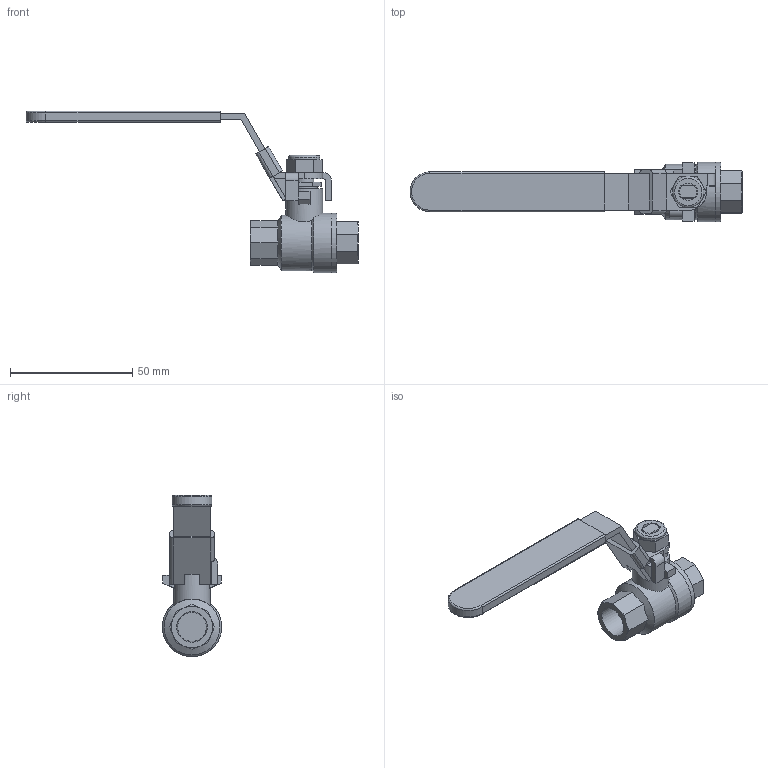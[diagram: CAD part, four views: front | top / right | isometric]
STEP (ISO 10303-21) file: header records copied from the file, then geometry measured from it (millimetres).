
FILE_DESCRIPTION((' '),'2;1');
FILE_NAME('N:\Technical Support\Private\Jomar Valve CAD\Ball Valves\Brass\JF-100T[G]\.25 JF-100T[G]-LH (100-101[SSG]LH)FusionCopy.stp.step','2017-04-10T16:52:51',(' '),(' '),' ','ACIS',' ');
FILE_SCHEMA(('CONFIG_CONTROL_DESIGN'));
Length unit declared in the file: inch
Products named in the file (9): N:\Technical Support\Private\Jomar Valve CAD\Ball Valves\Brass\JF-100T[G]\.25 JF-100T[G]-LH (100-101[SSG]LH)FusionCopy.stp.step; Body1; Body2; Body3; Body4; Body5; Body6; Body7; Body8
Assembly tree (8 placements, depth 2):
  N:\Technical Support\Private\Jomar Valve CAD\Ball Valves\Brass\JF-100T[G]\.25 JF-100T[G]-LH (100-101[SSG]LH)FusionCopy.stp.step
    Body1
    Body2
    Body3
    Body4
    Body5
    Body6
    Body7
    Body8
Bounding box: 135.54 x 24.26 x 65.83 mm (x, y, z)
Volume: 27988.2 mm3; surface area: 17234.7 mm2
Topology: 8 solids, 8 shells, 158 faces, 374 edges, 237 vertices
Faces by surface type: plane 103, cylinder 26, cone 19, bspline 7, torus 3
Full cylindrical faces by diameter (mm): 6.858 x1, 7.874 x1, 8.509 x1, 10.668 x1, 12.751 x1, 14.986 x1, 22.733 x1, 24.257 x2
Entity records: 5732 total; most frequent: CARTESIAN_POINT 986, DIRECTION 732, ORIENTED_EDGE 710, EDGE_CURVE 355, AXIS2_PLACEMENT_3D 254, VERTEX_POINT 231, VECTOR 224, LINE 224
